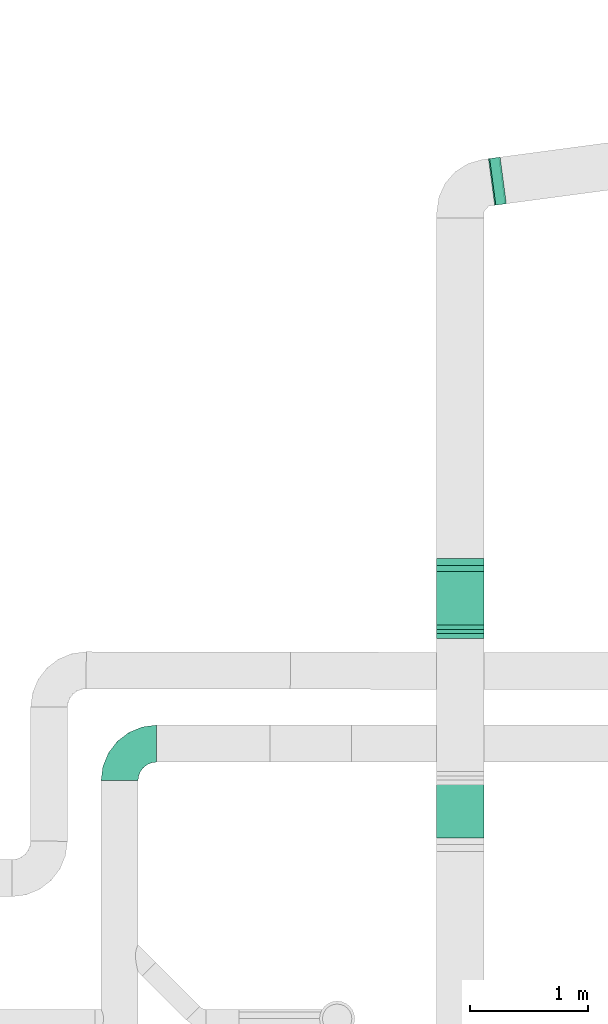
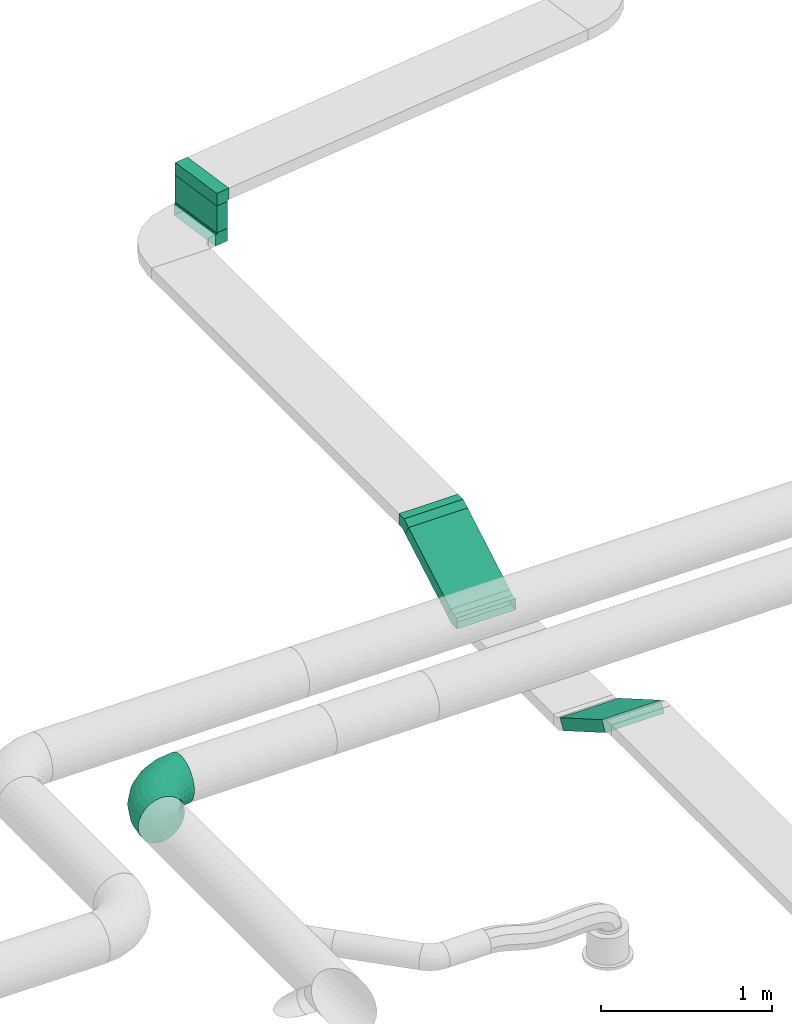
# One storey, part 13 of 119: 7 distribution elements, 1 flow fitting.
"""IFC2X3 building model written with IfcOpenShell, lengths in metres."""

from ifc_helpers import new_model, si_unit, direction, frame, frame_2d, origin, place, context, subcontext, project, spatial, rectangle, extrude, open_shell, surface_model, source, transform, mapped, element, save


model = new_model("IFC2X3")

# Units and contexts
model_context = context("Model", 3, precision=1e-05, world=origin(), true_north=direction((-0.4480736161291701, 0.8939966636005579)))
body_context = subcontext(model_context, "Body", "Model", "MODEL_VIEW")
ifc_project = project(units=[si_unit("LENGTHUNIT", "METRE"), si_unit("AREAUNIT", "SQUARE_METRE"), si_unit("VOLUMEUNIT", "CUBIC_METRE"), si_unit("PLANEANGLEUNIT", "RADIAN"), si_unit("THERMODYNAMICTEMPERATUREUNIT", "KELVIN"), si_unit("MASSUNIT", "GRAM", prefix="KILO"), si_unit("TIMEUNIT", "SECOND")], contexts=[model_context])

# Site, building, storey
site_placement = place(None, origin())
site = spatial("IfcSite", under=ifc_project, at=site_placement, Name="Site 1", CompositionType="ELEMENT")
building_placement = place(site_placement, origin())
building = spatial("IfcBuilding", under=site, at=building_placement, Name="Undefined", CompositionType="ELEMENT")
storey_placement = place(building_placement, frame((0.0, 0.0, 5.4)))
storey = spatial("IfcBuildingStorey", under=building, at=storey_placement, Name="R+1", CompositionType="ELEMENT", Elevation=5.4)

# Distribution elements
shared_shape_1 = source(origin(), body_context, "Body", "SurfaceModel", [
    surface_model("IfcFaceBasedSurfaceModel", [(0.0, 0.03928203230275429, 0.0), (0.0, 0.0, 0.0), (0.3999999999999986, 0.0, 1.776356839e-15), (0.3999999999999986, 0.03928203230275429, 1.776356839e-15), (0.0, -0.034019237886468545, 0.019641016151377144), (0.3999999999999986, -0.034019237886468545, 0.019641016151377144), (0.0, -0.07401923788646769, -0.04964101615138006), (0.0, -0.02143593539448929, -0.0799999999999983), (0.3999999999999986, -0.02143593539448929, -0.0799999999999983), (0.3999999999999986, -0.07401923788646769, -0.04964101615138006), (0.0, 0.03928203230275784, -0.0799999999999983), (0.3999999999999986, 0.03928203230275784, -0.07999999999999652)], [open_shell([[[0, 1, 2, 3]], [[1, 4, 5, 2]], [[6, 7, 8, 9]], [[7, 10, 11, 8]], [[11, 3, 2]], [[11, 2, 5]], [[11, 5, 9]], [[11, 9, 8]], [[1, 0, 10]], [[4, 1, 10]], [[6, 4, 10]], [[7, 6, 10]]])]),
])
distribution_element_1_placement = place(storey_placement, origin())
element("IfcDistributionElement", 1, at=distribution_element_1_placement, inside=storey, Name="Connecteur articulé vertical Descendant", ObjectType="Connecteur articulé vertical Descendant", context=body_context, shape_type="MappedRepresentation", body=[
    mapped(shared_shape_1, transform((9.16099805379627, 20.80412489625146, 2.7925), x_axis=(1.0, 0.0, 0.0), y_axis=(-5.55111512e-16, -0.866025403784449, -0.499999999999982), z_axis=(-9.61481343e-16, 0.499999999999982, -0.866025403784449))),
])
distribution_element_2_placement = place(storey_placement, origin())
element("IfcDistributionElement", 2, at=distribution_element_2_placement, inside=storey, Name="Connecteur articulé vertical Descendant", ObjectType="Connecteur articulé vertical Descendant", context=body_context, shape_type="MappedRepresentation", body=[
    mapped(shared_shape_1, transform((9.16099805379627, 20.202451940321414, 2.5375000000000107), x_axis=(1.0, 0.0, 0.0), y_axis=(0.0, 0.8660254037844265, 0.5000000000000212), z_axis=(9.61481343e-16, -0.49999999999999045, 0.866025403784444))),
])

# Flow fitting
shared_shape_2 = source(origin(), body_context, "Body", "SurfaceModel", [
    surface_model("IfcFaceBasedSurfaceModel", [(0.12334725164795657, 0.0, -1.110223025e-15), (0.12264675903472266, 0.04110978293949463, -7.77156117e-16), (0.0007004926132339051, 0.041109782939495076, -7.77156117e-16), (0.0, 0.0, 0.0), (-0.1170905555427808, 0.04519480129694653, -0.031296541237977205), (-0.11914429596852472, 0.004131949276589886, -0.0316560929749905), (-0.22269912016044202, 0.05308645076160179, -0.0917568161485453), (-0.2259661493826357, 0.01211426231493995, -0.09281096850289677), (-0.3089281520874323, 0.06424692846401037, -0.1772605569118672), (-0.313185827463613, 0.023402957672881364, -0.17929702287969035), (-0.3699012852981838, 0.07791566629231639, -0.2819808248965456), (-0.3748594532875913, 0.03722872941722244, -0.285220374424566), (-0.4014633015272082, 0.09316116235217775, -0.39878110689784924), (-0.4067840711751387, 0.05264937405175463, -0.40336252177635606), (0.12059301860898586, 0.08079531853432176, -0.01055203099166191), (0.0027542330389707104, 0.08079531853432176, -0.01055203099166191), (-0.11106929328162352, 0.08474274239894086, -0.04079441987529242), (-0.21312067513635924, 0.09236857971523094, -0.09921822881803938), (-0.2964452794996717, 0.1031531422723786, -0.18184197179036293), (-0.3553646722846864, 0.11636147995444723, -0.2830349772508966), (-0.38586359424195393, 0.131093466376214, -0.39590110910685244), (0.11732598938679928, 0.11635210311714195, -0.03093698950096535), (0.006021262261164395, 0.1163521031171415, -0.030936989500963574), (-0.10149084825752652, 0.12008064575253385, -0.05950246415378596), (-0.19788356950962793, 0.12728363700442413, -0.11468672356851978), (-0.2765878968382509, 0.13747020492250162, -0.19272905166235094), (-0.3322402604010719, 0.14994615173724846, -0.28831099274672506), (-0.36104804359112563, 0.16386126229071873, -0.3949187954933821), (0.11306831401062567, 0.14535700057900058, -0.05976567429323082), (0.010278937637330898, 0.14535700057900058, -0.05976567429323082), (-0.08900797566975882, 0.14880029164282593, -0.08614575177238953), (-0.17802618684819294, 0.15545221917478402, -0.13710814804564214), (-0.25070925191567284, 0.16485946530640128, -0.2091798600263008), (-0.3021039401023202, 0.1763809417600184, -0.29744931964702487), (-0.32870778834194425, 0.189231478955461, -0.395901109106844), (0.10811014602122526, 0.16583337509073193, -0.09507345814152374), (0.015237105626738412, 0.16583337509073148, -0.09507345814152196), (-0.07447136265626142, 0.16894448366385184, -0.1189085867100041), (-0.15490177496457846, 0.17495468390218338, -0.16495451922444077), (-0.22057293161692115, 0.1834543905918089, -0.230073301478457), (-0.26700945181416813, 0.1938643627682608, -0.3098271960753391), (-0.2910467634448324, 0.20547517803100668, -0.3987811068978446), (0.10278937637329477, 0.17638579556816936, -0.13445417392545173), (0.020557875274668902, 0.17638579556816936, -0.1344541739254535), (-0.05887165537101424, 0.17914042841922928, -0.15555823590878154), (-0.13008622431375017, 0.18446197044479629, -0.1963281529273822), (-0.18823267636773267, 0.19198776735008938, -0.2539855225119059), (-0.22934842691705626, 0.20120494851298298, -0.324601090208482), (-0.2506315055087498, 0.21148537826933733, -0.40336252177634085), (0.09746860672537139, 0.17629513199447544, -0.17522409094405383), (0.025878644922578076, 0.17629513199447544, -0.17522409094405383), (-0.043271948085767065, 0.17869328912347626, -0.19359708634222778), (-0.10527067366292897, 0.18332617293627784, -0.22909098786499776), (-0.1558924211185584, 0.1898780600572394, -0.2792869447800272), (-0.1916874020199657, 0.19790245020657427, -0.3407641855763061), (-0.21021624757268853, 0.20685249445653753, -0.40933313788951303), (0.09251043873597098, 0.1655675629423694, -0.2146048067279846), (0.030836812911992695, 0.1655675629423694, -0.21460480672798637), (-0.028735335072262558, 0.1676335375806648, -0.2304328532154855), (-0.0821462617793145, 0.17162469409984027, -0.261010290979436), (-0.1257561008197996, 0.1772690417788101, -0.3042533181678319), (-0.1565929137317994, 0.18418192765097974, -0.35721499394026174), (-0.17255522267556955, 0.1918922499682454, -0.4162860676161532), (0.08825276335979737, 0.14493415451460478, -0.24991259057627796), (0.0350944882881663, 0.14493415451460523, -0.2499125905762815), (-0.01625246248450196, 0.1467148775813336, -0.2635552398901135), (-0.06228887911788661, 0.15015497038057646, -0.28991081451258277), (-0.09987745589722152, 0.15501999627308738, -0.32718322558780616), (-0.1264565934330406, 0.16097841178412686, -0.3728324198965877), (-0.14021496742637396, 0.16762416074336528, -0.4237474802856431), (0.08498573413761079, 0.11580103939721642, -0.27874127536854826), (0.03836151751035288, 0.11580103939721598, -0.2787412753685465), (-0.0066740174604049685, 0.11736288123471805, -0.2907070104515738), (-0.0470517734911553, 0.12038012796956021, -0.3138230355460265), (-0.08002007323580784, 0.12464715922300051, -0.34651403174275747), (-0.10333218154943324, 0.1298731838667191, -0.3865521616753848), (-0.11539941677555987, 0.13570205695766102, -0.43120889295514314), (0.08293199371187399, 0.08015359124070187, -0.2991262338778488), (0.04041525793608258, 0.08015359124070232, -0.2991262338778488), (-0.0006527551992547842, 0.08157783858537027, -0.31003781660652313), (-0.037473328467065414, 0.08432927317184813, -0.3311173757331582), (-0.06753720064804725, 0.08822038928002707, -0.36092837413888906), (-0.08879556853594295, 0.09298601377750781, -0.3974392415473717), (-0.0997997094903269, 0.09830137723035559, -0.438161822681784), (0.08223150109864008, 0.040421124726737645, -0.30967826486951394), (0.0411157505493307, 0.040421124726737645, -0.30967826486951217), (0.001400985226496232, 0.04179844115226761, -0.32023029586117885), (-0.03420629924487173, 0.044459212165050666, -0.34061525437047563), (-0.06327952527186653, 0.04822211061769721, -0.3694439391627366), (-0.08383740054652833, 0.052830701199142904, -0.4047517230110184), (-0.0944789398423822, 0.057970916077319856, -0.44413243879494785), (0.08293199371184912, -0.0006886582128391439, -0.3096782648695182), (0.040415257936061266, -0.0006886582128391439, -0.3096782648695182), (-0.0006527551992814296, 0.0007355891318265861, -0.32058984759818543), (-0.037473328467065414, 0.0034870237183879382, -0.34166940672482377), (-0.06753720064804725, 0.00737813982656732, -0.37148040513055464), (-0.08879556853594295, 0.012143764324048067, -0.4079912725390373), (-0.0997997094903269, 0.017459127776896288, -0.44871385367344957), (0.08498573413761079, -0.040374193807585, -0.29912623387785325), (0.03836151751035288, -0.040374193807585, -0.2991262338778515), (-0.0066740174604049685, -0.03881235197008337, -0.3110919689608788), (-0.0470517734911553, -0.03579510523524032, -0.33420799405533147), (-0.08002007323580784, -0.031528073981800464, -0.36689899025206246), (-0.10333218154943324, -0.02630204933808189, -0.4069371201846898), (-0.11539941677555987, -0.020473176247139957, -0.45159385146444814), (0.08825276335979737, -0.07593097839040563, -0.2787412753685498), (0.0350944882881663, -0.07593097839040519, -0.27874127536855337), (-0.01625246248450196, -0.0741502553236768, -0.29238392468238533), (-0.06228887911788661, -0.07071016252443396, -0.3187394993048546), (-0.09987745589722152, -0.06584513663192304, -0.356011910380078), (-0.1264565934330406, -0.05988672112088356, -0.40166110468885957), (-0.14021496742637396, -0.05324097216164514, -0.4525761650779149), (0.09251043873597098, -0.10493587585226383, -0.2499125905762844), (0.030836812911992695, -0.10493587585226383, -0.24991259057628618), (-0.028735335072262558, -0.10286990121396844, -0.2657406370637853), (-0.0821462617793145, -0.09887874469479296, -0.2963180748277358), (-0.1257561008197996, -0.09323439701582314, -0.3395611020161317), (-0.1565929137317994, -0.0863215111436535, -0.39252277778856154), (-0.17255522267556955, -0.07861118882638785, -0.451593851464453), (0.09746860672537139, -0.12541225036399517, -0.21460480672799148), (0.025878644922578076, -0.12541225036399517, -0.21460480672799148), (-0.043271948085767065, -0.12301409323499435, -0.23297780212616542), (-0.10527067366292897, -0.11838120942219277, -0.2684717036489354), (-0.1558924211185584, -0.11182932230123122, -0.31866766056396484), (-0.1916874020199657, -0.10380493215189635, -0.38014490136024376), (-0.21021624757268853, -0.09485488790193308, -0.4487138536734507), (0.10278937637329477, -0.13596467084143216, -0.1752240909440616), (0.020557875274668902, -0.13596467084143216, -0.17522409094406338), (-0.05887165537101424, -0.1332100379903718, -0.19632815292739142), (-0.13008622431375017, -0.12788849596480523, -0.23709806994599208), (-0.18823267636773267, -0.12036269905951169, -0.2947554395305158), (-0.22934842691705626, -0.11114551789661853, -0.36537100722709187), (-0.2506315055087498, -0.10086508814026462, -0.44413243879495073), (0.10811014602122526, -0.13587400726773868, -0.13445417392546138), (0.015237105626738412, -0.13587400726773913, -0.1344541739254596), (-0.07447136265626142, -0.13276289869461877, -0.15828930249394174), (-0.15490177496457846, -0.12675269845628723, -0.2043352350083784), (-0.22057293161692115, -0.11825299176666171, -0.26945401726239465), (-0.26700945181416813, -0.10784301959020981, -0.34920791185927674), (-0.2910467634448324, -0.09623220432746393, -0.4381618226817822), (0.11306831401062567, -0.12514643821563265, -0.09507345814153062), (0.010278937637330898, -0.12514643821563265, -0.09507345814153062), (-0.08900797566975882, -0.1217031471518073, -0.12145353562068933), (-0.17802618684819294, -0.11505121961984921, -0.17241593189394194), (-0.25070925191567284, -0.10564397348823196, -0.2444876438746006), (-0.3021039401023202, -0.09412249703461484, -0.33275710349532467), (-0.32870778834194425, -0.08127195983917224, -0.4312088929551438), (0.11732598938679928, -0.10451302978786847, -0.05976567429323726), (0.006021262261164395, -0.10451302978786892, -0.05976567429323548), (-0.10149084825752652, -0.10078448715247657, -0.08833114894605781), (-0.19788356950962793, -0.09358149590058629, -0.14351540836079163), (-0.2765878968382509, -0.0833949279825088, -0.2215577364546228), (-0.3322402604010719, -0.07091898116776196, -0.3171396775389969), (-0.36104804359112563, -0.057003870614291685, -0.42374748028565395), (0.12059301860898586, -0.07537991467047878, -0.030936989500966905), (0.0027542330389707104, -0.07537991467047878, -0.030936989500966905), (-0.11106929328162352, -0.07143249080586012, -0.06117937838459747), (-0.21312067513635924, -0.06380665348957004, -0.11960318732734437), (-0.2964452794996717, -0.05302209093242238, -0.20222693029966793), (-0.3553646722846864, -0.039813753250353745, -0.3034199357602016), (-0.38586359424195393, -0.025081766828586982, -0.41628606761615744), (0.12264675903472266, -0.039732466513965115, -0.010552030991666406), (0.0007004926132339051, -0.039732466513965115, -0.010552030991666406), (-0.1170905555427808, -0.03564744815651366, -0.04184857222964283), (-0.22269912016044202, -0.027755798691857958, -0.10230884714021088), (-0.3089281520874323, -0.016595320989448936, -0.18781258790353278), (-0.3699012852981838, -0.002926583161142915, -0.29253285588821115), (-0.4014633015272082, 0.012318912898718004, -0.4093331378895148)], [open_shell([[[0, 1, 2, 3]], [[3, 2, 4, 5]], [[5, 4, 6, 7]], [[7, 6, 8, 9]], [[9, 8, 10, 11]], [[11, 10, 12, 13]], [[1, 14, 15, 2]], [[2, 15, 16, 4]], [[4, 16, 17, 6]], [[6, 17, 18, 8]], [[8, 18, 19, 10]], [[10, 19, 20, 12]], [[14, 21, 22, 15]], [[15, 22, 23, 16]], [[16, 23, 24, 17]], [[17, 24, 25, 18]], [[18, 25, 26, 19]], [[19, 26, 27, 20]], [[21, 28, 29, 22]], [[22, 29, 30, 23]], [[23, 30, 31, 24]], [[24, 31, 32, 25]], [[25, 32, 33, 26]], [[26, 33, 34, 27]], [[28, 35, 36, 29]], [[29, 36, 37, 30]], [[30, 37, 38, 31]], [[31, 38, 39, 32]], [[32, 39, 40, 33]], [[33, 40, 41, 34]], [[35, 42, 43, 36]], [[36, 43, 44, 37]], [[37, 44, 45, 38]], [[38, 45, 46, 39]], [[39, 46, 47, 40]], [[40, 47, 48, 41]], [[42, 49, 50, 43]], [[43, 50, 51, 44]], [[44, 51, 52, 45]], [[45, 52, 53, 46]], [[46, 53, 54, 47]], [[47, 54, 55, 48]], [[49, 56, 57, 50]], [[50, 57, 58, 51]], [[51, 58, 59, 52]], [[52, 59, 60, 53]], [[53, 60, 61, 54]], [[54, 61, 62, 55]], [[56, 63, 64, 57]], [[57, 64, 65, 58]], [[58, 65, 66, 59]], [[59, 66, 67, 60]], [[60, 67, 68, 61]], [[61, 68, 69, 62]], [[63, 70, 71, 64]], [[64, 71, 72, 65]], [[65, 72, 73, 66]], [[66, 73, 74, 67]], [[67, 74, 75, 68]], [[68, 75, 76, 69]], [[70, 77, 78, 71]], [[71, 78, 79, 72]], [[72, 79, 80, 73]], [[73, 80, 81, 74]], [[74, 81, 82, 75]], [[75, 82, 83, 76]], [[77, 84, 85, 78]], [[78, 85, 86, 79]], [[79, 86, 87, 80]], [[80, 87, 88, 81]], [[81, 88, 89, 82]], [[82, 89, 90, 83]], [[84, 91, 92, 85]], [[85, 92, 93, 86]], [[86, 93, 94, 87]], [[87, 94, 95, 88]], [[88, 95, 96, 89]], [[89, 96, 97, 90]], [[91, 98, 99, 92]], [[92, 99, 100, 93]], [[93, 100, 101, 94]], [[94, 101, 102, 95]], [[95, 102, 103, 96]], [[96, 103, 104, 97]], [[98, 105, 106, 99]], [[99, 106, 107, 100]], [[100, 107, 108, 101]], [[101, 108, 109, 102]], [[102, 109, 110, 103]], [[103, 110, 111, 104]], [[105, 112, 113, 106]], [[106, 113, 114, 107]], [[107, 114, 115, 108]], [[108, 115, 116, 109]], [[109, 116, 117, 110]], [[110, 117, 118, 111]], [[112, 119, 120, 113]], [[113, 120, 121, 114]], [[114, 121, 122, 115]], [[115, 122, 123, 116]], [[116, 123, 124, 117]], [[117, 124, 125, 118]], [[119, 126, 127, 120]], [[120, 127, 128, 121]], [[121, 128, 129, 122]], [[122, 129, 130, 123]], [[123, 130, 131, 124]], [[124, 131, 132, 125]], [[126, 133, 134, 127]], [[127, 134, 135, 128]], [[128, 135, 136, 129]], [[129, 136, 137, 130]], [[130, 137, 138, 131]], [[131, 138, 139, 132]], [[133, 140, 141, 134]], [[134, 141, 142, 135]], [[135, 142, 143, 136]], [[136, 143, 144, 137]], [[137, 144, 145, 138]], [[138, 145, 146, 139]], [[140, 147, 148, 141]], [[141, 148, 149, 142]], [[142, 149, 150, 143]], [[143, 150, 151, 144]], [[144, 151, 152, 145]], [[145, 152, 153, 146]], [[147, 154, 155, 148]], [[148, 155, 156, 149]], [[149, 156, 157, 150]], [[150, 157, 158, 151]], [[151, 158, 159, 152]], [[152, 159, 160, 153]], [[154, 161, 162, 155]], [[155, 162, 163, 156]], [[156, 163, 164, 157]], [[157, 164, 165, 158]], [[158, 165, 166, 159]], [[159, 166, 167, 160]], [[161, 0, 3, 162]], [[162, 3, 5, 163]], [[163, 5, 7, 164]], [[164, 7, 9, 165]], [[165, 9, 11, 166]], [[166, 11, 13, 167]]])]),
])
flow_fitting_placement = place(storey_placement, origin())
element("IfcFlowFitting", 3, at=flow_fitting_placement, inside=storey, Name="Coude", ObjectType="Coude", context=body_context, shape_type="MappedRepresentation", body=[
    mapped(shared_shape_2, transform((6.654370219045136, 19.408326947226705, 2.775), x_axis=(0.9914448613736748, 0.13052619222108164, 0.0), y_axis=(0.016893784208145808, -0.12832103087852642, -0.9915887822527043), z_axis=(-0.12942830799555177, 0.9831056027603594, -0.12942830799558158))),
])

# Distribution elements
shared_shape_3 = source(origin(), body_context, "Body", "SurfaceModel", [
    surface_model("IfcFaceBasedSurfaceModel", [(-3.552713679e-15, 0.009999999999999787, 0.0), (0.0, 0.0, 0.0), (0.3999999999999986, 0.0, 1.776356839e-15), (0.3999999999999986, 0.01000000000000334, 0.0), (-3.552713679e-15, 0.0, -0.009999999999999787), (0.3999999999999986, 1.776356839e-15, -0.009999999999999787), (0.0, -0.08000000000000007, -0.009999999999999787), (0.0, -0.0799999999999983, 0.08000000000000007), (0.3999999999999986, -0.07999999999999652, 0.08000000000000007), (0.3999999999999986, -0.07999999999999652, -0.009999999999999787), (-3.552713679e-15, 0.009999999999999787, 0.08000000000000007), (0.3999999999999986, 0.01000000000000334, 0.08000000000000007)], [open_shell([[[0, 1, 2, 3]], [[1, 4, 5, 2]], [[6, 7, 8, 9]], [[7, 10, 11, 8]], [[9, 5, 2]], [[8, 9, 2]], [[11, 8, 2]], [[3, 11, 2]], [[1, 4, 6]], [[1, 6, 7]], [[1, 7, 10]], [[1, 10, 0]]])]),
])
distribution_element_3_placement = place(storey_placement, origin())
element("IfcDistributionElement", 4, at=distribution_element_3_placement, inside=storey, Name="Connecteur articulé vertical Montant", ObjectType="Connecteur articulé vertical Montant", context=body_context, shape_type="MappedRepresentation", body=[
    mapped(shared_shape_3, transform((9.690254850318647, 24.256425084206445, 3.084999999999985), x_axis=(0.13225629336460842, -0.9912155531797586, 0.0), y_axis=(0.9912155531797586, 0.13225629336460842, 0.0), z_axis=(0.0, 0.0, 1.0))),
])
distribution_element_4_placement = place(storey_placement, origin())
element("IfcDistributionElement", 5, at=distribution_element_4_placement, inside=storey, Name="Connecteur articulé vertical Descendant", ObjectType="Connecteur articulé vertical Descendant", context=body_context, shape_type="MappedRepresentation", body=[
    mapped(shared_shape_3, transform((9.66386012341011, 23.84935835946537, 2.8725000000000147), x_axis=(-0.132256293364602, 0.9912155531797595, 0.0), y_axis=(0.0, 0.0, 1.0), z_axis=(0.9912155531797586, 0.13225629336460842, 0.0))),
])
distribution_element_5_placement = place(storey_placement, origin())
element("IfcDistributionElement", 6, at=distribution_element_5_placement, inside=storey, Name="Chemin(s) de câbles", ObjectType="Chemin(s) de câbles", context=body_context, shape_type="SweptSolid", body=[
    extrude(rectangle(XDim=0.4, YDim=0.08, at=frame_2d((3.552713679e-15, 0.0), x_axis=(-1.0, 0.0))), frame((9.36099805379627, 18.442181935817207, 2.8074999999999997), z_axis=(2.53885469e-16, 0.8660254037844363, -0.5000000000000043), x_axis=(1.0, 0.0, 0.0)), (0.0, 0.0, 1.0), 0.5699999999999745),
])
distribution_element_6_placement = place(storey_placement, origin())
element("IfcDistributionElement", 7, at=distribution_element_6_placement, inside=storey, Name="Chemin(s) de câbles", ObjectType="Chemin(s) de câbles", context=body_context, shape_type="SweptSolid", body=[
    extrude(rectangle(XDim=0.4, YDim=0.08, at=frame_2d((3.552713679e-15, 0.0), x_axis=(-1.0, 0.0))), frame((9.36099805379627, 20.75010565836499, 2.8074999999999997), z_axis=(-5.55111512e-16, -0.866025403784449, -0.499999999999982), x_axis=(-1.0, 0.0, 0.0)), (0.0, 0.0, 1.0), 0.5699999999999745),
])
distribution_element_7_placement = place(storey_placement, origin())
element("IfcDistributionElement", 8, at=distribution_element_7_placement, inside=storey, Name="Chemin(s) de câbles", ObjectType="Chemin(s) de câbles", context=body_context, shape_type="SweptSolid", body=[
    extrude(rectangle(XDim=0.4, YDim=0.08, at=frame_2d((3.552713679e-15, 0.0), x_axis=(-1.0, 0.0))), frame((9.677057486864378, 24.052891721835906, 3.074999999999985), z_axis=(0.0, 0.0, -1.0), x_axis=(0.13225629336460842, -0.9912155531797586, 0.0)), (0.0, 0.0, 1.0), 0.19249999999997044),
])

save(model, "model.ifc")
